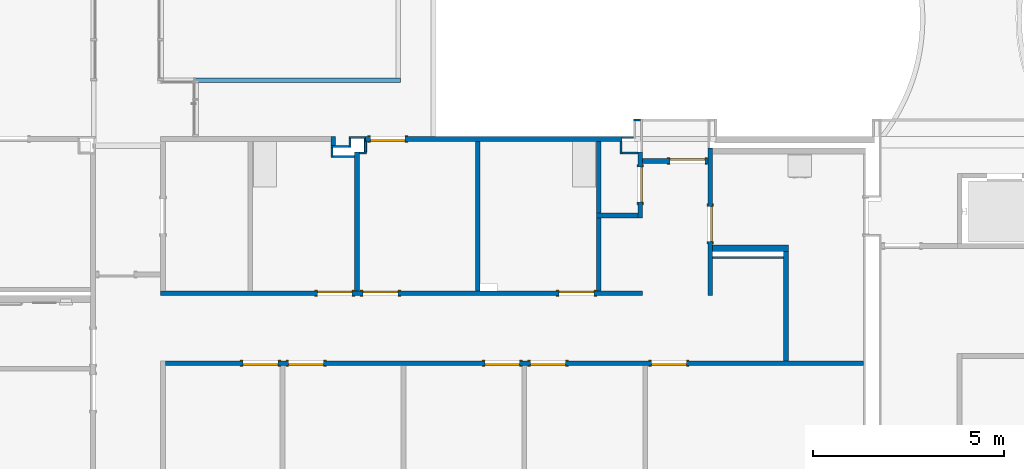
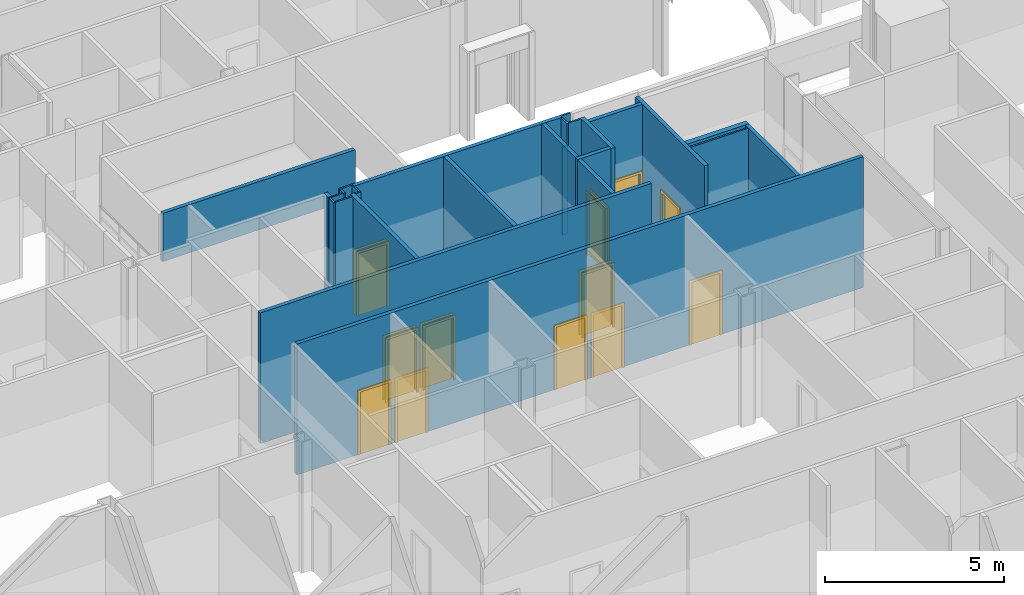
# One storey, part 28 of 82: 27 walls, 12 doors, 12 openings.
"""IFC2X3 building model written with IfcOpenShell, lengths in metres."""

from ifc_helpers import new_model, entity, si_unit, converted_unit, frame, frame_2d, origin, origin_2d_with_axis, place, context, project, spatial, polyline, rectangle, outline, extrude, source, transform, mapped, material, layer, layer_set, layer_usage, type_object, type_shapes, element, fill, save


model = new_model("IFC2X3")

# Units and contexts
model_context = context("Model", 3, precision=1e-09, world=origin())
plan_context = context("Plan", 3, precision=1e-09, world=origin())
ifc_project = project(units=[si_unit("LENGTHUNIT", "METRE"), si_unit("AREAUNIT", "SQUARE_METRE"), si_unit("VOLUMEUNIT", "CUBIC_METRE"), converted_unit("PLANEANGLEUNIT", "DEGREE", entity("IfcRatioMeasure", 0.01745329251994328), si_unit("PLANEANGLEUNIT", "RADIAN"), dimensions=[0, 0, 0, 0, 0, 0, 0]), si_unit("TIMEUNIT", "SECOND")], contexts=[model_context, plan_context])

# Site, building, storey
site_placement = place(None, origin())
site = spatial("IfcSite", under=ifc_project, at=site_placement, Name="Default", CompositionType="ELEMENT")
building_placement = place(site_placement, origin())
building = spatial("IfcBuilding", under=site, at=building_placement, CompositionType="ELEMENT")
storey_placement = place(building_placement, origin())
storey = spatial("IfcBuildingStorey", under=building, at=storey_placement, Name="First Floor", CompositionType="ELEMENT", Elevation=-3.531500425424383e-13)

# Wall, openings, doors
ifc_material_1 = material(Name="Plasterboard")
ifc_layer_1 = layer(ifc_material_1, 0.016)
ifc_material_2 = material(Name="Metal - Stud Layer")
ifc_layer_2 = layer(ifc_material_2, 0.092)
ifc_layer_3 = layer(ifc_material_1, 0.016)
ifc_layer_set_1 = layer_set([ifc_layer_1, ifc_layer_2, ifc_layer_3], Name="Basic Wall:Interior - Partition (92mm Stud)")
ifc_layer_usage_1 = layer_usage(ifc_layer_set_1, "AXIS2", "NEGATIVE", 0.062)
wall_1_placement = place(storey_placement, frame((-38.59600000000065, 22.6679999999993, 0.0)))
wall_1 = element("IfcWallStandardCase", 1, at=wall_1_placement, inside=storey, material=ifc_layer_usage_1, Name="Basic Wall:Interior - Partition (92mm Stud)", ObjectType="Basic Wall:Interior - Partition (92mm Stud)", context=model_context, shape_type="SweptSolid", body=[
    extrude(rectangle(XDim=18.306, YDim=0.1239999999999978, at=frame_2d((9.152999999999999, 0.0), x_axis=(-1.0, 0.0))), origin(), (0.0, 0.0, 1.0), 4.468000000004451),
])
opening_1_placement = place(wall_1_placement, frame((10.49100000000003, 0.06199999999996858, 0.0)))
opening_1 = element("IfcOpeningElement", 2, at=opening_1_placement, cuts=wall_1, Name="M_Single-Flush:0915 x 2134mm:0915 x 2134mm:1", ObjectType="Opening", context=model_context, shape_type="SweptSolid", body=[
    extrude(rectangle(XDim=0.9149999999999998, YDim=2.134, at=frame_2d((1.067, 0.4575), x_axis=(0.0, 1.0))), frame((0.0, 0.0, 0.0), z_axis=(0.0, -1.0, 0.0), x_axis=(0.0, 0.0, 1.0)), (0.0, 0.0, 1.0), 0.124),
])
opening_2_placement = place(wall_1_placement, frame((4.151000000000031, 0.06199999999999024, 0.0)))
opening_2 = element("IfcOpeningElement", 3, at=opening_2_placement, cuts=wall_1, Name="M_Single-Flush:0915 x 2134mm:0915 x 2134mm:1", ObjectType="Opening", context=model_context, shape_type="SweptSolid", body=[
    extrude(rectangle(XDim=0.9149999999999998, YDim=2.134, at=frame_2d((1.067, 0.4575), x_axis=(0.0, 1.0))), frame((0.0, 0.0, 0.0), z_axis=(0.0, -1.0, 0.0), x_axis=(0.0, 0.0, 1.0)), (0.0, 0.0, 1.0), 0.124),
])
opening_3_placement = place(wall_1_placement, frame((9.292000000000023, 0.06199999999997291, 0.0)))
opening_3 = element("IfcOpeningElement", 4, at=opening_3_placement, cuts=wall_1, Name="M_Single-Flush:0915 x 2134mm:0915 x 2134mm:1", ObjectType="Opening", context=model_context, shape_type="SweptSolid", body=[
    extrude(rectangle(XDim=0.9149999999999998, YDim=2.134, at=frame_2d((1.067, 0.4574999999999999), x_axis=(0.0, -1.0))), frame((0.0, 0.0, 0.0), z_axis=(0.0, -1.0, 0.0), x_axis=(0.0, 0.0, 1.0)), (0.0, 0.0, 1.0), 0.124),
])
opening_4_placement = place(wall_1_placement, frame((2.952000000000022, 0.06199999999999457, 0.0)))
opening_4 = element("IfcOpeningElement", 5, at=opening_4_placement, cuts=wall_1, Name="M_Single-Flush:0915 x 2134mm:0915 x 2134mm:1", ObjectType="Opening", context=model_context, shape_type="SweptSolid", body=[
    extrude(rectangle(XDim=0.9149999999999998, YDim=2.134, at=frame_2d((1.067, 0.4574999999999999), x_axis=(0.0, -1.0))), frame((0.0, 0.0, 0.0), z_axis=(0.0, -1.0, 0.0), x_axis=(0.0, 0.0, 1.0)), (0.0, 0.0, 1.0), 0.124),
])
opening_5_placement = place(wall_1_placement, frame((13.66100000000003, 0.06199999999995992, 0.0)))
opening_5 = element("IfcOpeningElement", 6, at=opening_5_placement, cuts=wall_1, Name="M_Single-Flush:0915 x 2134mm:0915 x 2134mm:1", ObjectType="Opening", context=model_context, shape_type="SweptSolid", body=[
    extrude(rectangle(XDim=0.9149999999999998, YDim=2.134, at=frame_2d((1.067, 0.4575), x_axis=(0.0, 1.0))), frame((0.0, 0.0, 0.0), z_axis=(0.0, -1.0, 0.0), x_axis=(0.0, 0.0, 1.0)), (0.0, 0.0, 1.0), 0.124),
])
door_style_1 = type_object("IfcDoorStyle", Name="0915 x 2134mm", ConstructionType="NOTDEFINED", OperationType="SINGLE_SWING_RIGHT", ParameterTakesPrecedence=False, Sizeable=False)
shared_shape_1 = source(origin(), model_context, "Body", "SweptSolid", [
    extrude(outline(polyline([(-0.5335, -1.123999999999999), (0.5334999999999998, -1.123999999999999), (0.5334999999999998, 1.086), (0.4574999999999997, 1.086), (0.4574999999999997, -1.048000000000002), (-0.4574999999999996, -1.048000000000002), (-0.4574999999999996, 1.086), (-0.5335, 1.086), (-0.5335, -1.123999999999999)])), frame((0.4575000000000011, 0.1239999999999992, 1.086), z_axis=(0.0, 1.0, 0.0), x_axis=(1.0, 0.0, 0.0)), (0.0, 0.0, 1.0), 0.02499999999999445),
    extrude(outline(polyline([(-1.123999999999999, -0.5334999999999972), (1.085999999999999, -0.5334999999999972), (1.085999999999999, -0.4575000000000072), (-1.048, -0.4575000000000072), (-1.048, 0.4575000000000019), (1.085999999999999, 0.4575000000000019), (1.085999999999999, 0.5335000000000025), (-1.123999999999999, 0.5335000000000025), (-1.123999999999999, -0.5334999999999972)])), frame((0.4575000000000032, -0.02500000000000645, 1.085999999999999), z_axis=(0.0, 1.0, 0.0), x_axis=(0.0, 0.0, -1.0)), (0.0, 0.0, 1.0), 0.02500000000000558),
    extrude(rectangle(XDim=0.051, YDim=0.9149999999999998, at=origin_2d_with_axis()), frame((0.4575000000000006, 0.09849999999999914, 0.0), z_axis=(0.0, 0.0, 1.0), x_axis=(0.0, 1.0, 0.0)), (0.0, 0.0, 1.0), 2.133999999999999),
])
type_shapes(door_style_1, [shared_shape_1])
door_1_placement = place(opening_1_placement, frame((0.0, 0.0, 0.0), z_axis=(0.0, 0.0, 1.0), x_axis=(-1.0, 0.0, 0.0)))
door_1 = element("IfcDoor", 7, at=door_1_placement, inside=storey, type_object=door_style_1, Name="M_Single-Flush:0915 x 2134mm:0915 x 2134mm", ObjectType="0915 x 2134mm", OverallHeight=2.134, OverallWidth=0.9149999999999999, context=model_context, shape_type="MappedRepresentation", body=[
    mapped(shared_shape_1, transform((0.0, 0.0, 0.0), scale=1.0)),
])
fill(opening_1, door_1)
door_2_placement = place(opening_5_placement, frame((0.0, 0.0, 0.0), z_axis=(0.0, 0.0, 1.0), x_axis=(-1.0, 0.0, 0.0)))
door_2 = element("IfcDoor", 8, at=door_2_placement, inside=storey, type_object=door_style_1, Name="M_Single-Flush:0915 x 2134mm:0915 x 2134mm", ObjectType="0915 x 2134mm", OverallHeight=2.134, OverallWidth=0.9149999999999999, context=model_context, shape_type="MappedRepresentation", body=[
    mapped(shared_shape_1, transform((0.0, 0.0, 0.0), scale=1.0)),
])
fill(opening_5, door_2)
door_3_placement = place(opening_2_placement, frame((0.0, 0.0, 0.0), z_axis=(0.0, 0.0, 1.0), x_axis=(-1.0, 0.0, 0.0)))
door_3 = element("IfcDoor", 9, at=door_3_placement, inside=storey, type_object=door_style_1, Name="M_Single-Flush:0915 x 2134mm:0915 x 2134mm", ObjectType="0915 x 2134mm", OverallHeight=2.134, OverallWidth=0.9149999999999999, context=model_context, shape_type="MappedRepresentation", body=[
    mapped(shared_shape_1, transform((0.0, 0.0, 0.0), scale=1.0)),
])
fill(opening_2, door_3)
door_style_2 = type_object("IfcDoorStyle", Name="0915 x 2134mm", ConstructionType="NOTDEFINED", OperationType="SINGLE_SWING_LEFT", ParameterTakesPrecedence=False, Sizeable=False)
shared_shape_2 = source(origin(), model_context, "Body", "SweptSolid", [
    extrude(outline(polyline([(-0.5335, -1.123999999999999), (0.5334999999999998, -1.123999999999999), (0.5334999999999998, 1.086), (0.4574999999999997, 1.086), (0.4574999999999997, -1.048000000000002), (-0.4574999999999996, -1.048000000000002), (-0.4574999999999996, 1.086), (-0.5335, 1.086), (-0.5335, -1.123999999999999)])), frame((0.4575000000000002, 0.1489999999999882, 1.086), z_axis=(0.0, -1.0, 0.0), x_axis=(-1.0, 0.0, 0.0)), (0.0, 0.0, 1.0), 0.02499999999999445),
    extrude(outline(polyline([(-1.123999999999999, -0.5334999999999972), (1.085999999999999, -0.5334999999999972), (1.085999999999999, -0.4575000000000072), (-1.048, -0.4575000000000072), (-1.048, 0.4575000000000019), (1.085999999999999, 0.4575000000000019), (1.085999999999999, 0.5335000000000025), (-1.123999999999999, 0.5335000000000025), (-1.123999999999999, -0.5334999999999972)])), frame((0.4574999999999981, 0.0, 1.085999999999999), z_axis=(0.0, -1.0, 0.0), x_axis=(0.0, 0.0, -1.0)), (0.0, 0.0, 1.0), 0.02500000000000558),
    extrude(rectangle(XDim=0.9149999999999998, YDim=0.051, at=origin_2d_with_axis()), frame((0.4575000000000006, 0.09849999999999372, 0.0)), (0.0, 0.0, 1.0), 2.133999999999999),
])
type_shapes(door_style_2, [shared_shape_2])
door_4_placement = place(opening_3_placement, frame((0.0, 0.0, 0.0), z_axis=(0.0, 0.0, 1.0), x_axis=(-1.0, 0.0, 0.0)))
door_4 = element("IfcDoor", 10, at=door_4_placement, inside=storey, type_object=door_style_2, Name="M_Single-Flush:0915 x 2134mm:0915 x 2134mm", ObjectType="0915 x 2134mm", OverallHeight=2.134, OverallWidth=0.9149999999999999, context=model_context, shape_type="MappedRepresentation", body=[
    mapped(shared_shape_2, transform((0.0, 0.0, 0.0), scale=1.0)),
])
fill(opening_3, door_4)
door_5_placement = place(opening_4_placement, frame((0.0, 0.0, 0.0), z_axis=(0.0, 0.0, 1.0), x_axis=(-1.0, 0.0, 0.0)))
door_5 = element("IfcDoor", 11, at=door_5_placement, inside=storey, type_object=door_style_2, Name="M_Single-Flush:0915 x 2134mm:0915 x 2134mm", ObjectType="0915 x 2134mm", OverallHeight=2.134, OverallWidth=0.9149999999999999, context=model_context, shape_type="MappedRepresentation", body=[
    mapped(shared_shape_2, transform((0.0, 0.0, 0.0), scale=1.0)),
])
fill(opening_4, door_5)

wall_2_placement = place(storey_placement, frame((-26.08000000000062, 24.50199999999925, 0.0), z_axis=(0.0, 0.0, 1.0), x_axis=(-1.0, 0.0, 0.0)))
wall_2 = element("IfcWallStandardCase", 12, at=wall_2_placement, inside=storey, material=ifc_layer_usage_1, Name="Basic Wall:Interior - Partition (92mm Stud)", ObjectType="Basic Wall:Interior - Partition (92mm Stud)", context=model_context, shape_type="SweptSolid", body=[
    extrude(rectangle(XDim=12.64, YDim=0.1239999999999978, at=frame_2d((6.319999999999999, 0.0), x_axis=(-1.0, 0.0))), origin(), (0.0, 0.0, 1.0), 4.468000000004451),
])
opening_6_placement = place(wall_2_placement, frame((8.52900000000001, 0.06199999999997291, 0.0)))
opening_6 = element("IfcOpeningElement", 13, at=opening_6_placement, cuts=wall_2, Name=":1", ObjectType="Opening", context=model_context, shape_type="SweptSolid", body=[
    extrude(rectangle(XDim=0.9149999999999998, YDim=2.134, at=frame_2d((1.067, 0.4575), x_axis=(0.0, 1.0))), frame((0.0, 0.0, 0.0), z_axis=(0.0, -1.0, 0.0), x_axis=(0.0, 0.0, 1.0)), (0.0, 0.0, 1.0), 0.124),
])
opening_7_placement = place(wall_2_placement, frame((2.188999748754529, 0.06199999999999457, 0.0)))
opening_7 = element("IfcOpeningElement", 14, at=opening_7_placement, cuts=wall_2, Name=":1", ObjectType="Opening", context=model_context, shape_type="SweptSolid", body=[
    extrude(rectangle(XDim=0.9149999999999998, YDim=2.134, at=frame_2d((1.067, 0.4575), x_axis=(0.0, 1.0))), frame((0.0, 0.0, 0.0), z_axis=(0.0, -1.0, 0.0), x_axis=(0.0, 0.0, 1.0)), (0.0, 0.0, 1.0), 0.124),
])
opening_8_placement = place(wall_2_placement, frame((7.330000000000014, 0.06199999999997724, 0.0)))
opening_8 = element("IfcOpeningElement", 15, at=opening_8_placement, cuts=wall_2, Name=":1", ObjectType="Opening", context=model_context, shape_type="SweptSolid", body=[
    extrude(rectangle(XDim=0.9149999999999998, YDim=2.134, at=frame_2d((1.067, 0.4574999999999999), x_axis=(0.0, -1.0))), frame((0.0, 0.0, 0.0), z_axis=(0.0, -1.0, 0.0), x_axis=(0.0, 0.0, 1.0)), (0.0, 0.0, 1.0), 0.124),
])
door_6_placement = place(opening_7_placement, frame((0.0, 0.0, 0.0), z_axis=(0.0, 0.0, 1.0), x_axis=(-1.0, 0.0, 0.0)))
door_6 = element("IfcDoor", 16, at=door_6_placement, inside=storey, type_object=door_style_1, Name="M_Single-Flush:0915 x 2134mm:0915 x 2134mm", ObjectType="0915 x 2134mm", OverallHeight=2.134, OverallWidth=0.9149999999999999, context=model_context, shape_type="MappedRepresentation", body=[
    mapped(shared_shape_1, transform((0.0, 0.0, 0.0), scale=1.0)),
])
fill(opening_7, door_6)
door_7_placement = place(opening_6_placement, frame((0.0, 0.0, 0.0), z_axis=(0.0, 0.0, 1.0), x_axis=(-1.0, 0.0, 0.0)))
door_7 = element("IfcDoor", 17, at=door_7_placement, inside=storey, type_object=door_style_1, Name="M_Single-Flush:0915 x 2134mm:0915 x 2134mm", ObjectType="0915 x 2134mm", OverallHeight=2.134, OverallWidth=0.9149999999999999, context=model_context, shape_type="MappedRepresentation", body=[
    mapped(shared_shape_1, transform((0.0, 0.0, 0.0), scale=1.0)),
])
fill(opening_6, door_7)
door_8_placement = place(opening_8_placement, frame((0.0, 0.0, 0.0), z_axis=(0.0, 0.0, 1.0), x_axis=(-1.0, 0.0, 0.0)))
door_8 = element("IfcDoor", 18, at=door_8_placement, inside=storey, type_object=door_style_2, Name="M_Single-Flush:0915 x 2134mm:0915 x 2134mm", ObjectType="0915 x 2134mm", OverallHeight=2.134, OverallWidth=0.9149999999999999, context=model_context, shape_type="MappedRepresentation", body=[
    mapped(shared_shape_2, transform((0.0, 0.0, 0.0), scale=1.0)),
])
fill(opening_8, door_8)

# Wall, opening, door
wall_3_placement = place(storey_placement, frame((-33.34700000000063, 28.54799999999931, 0.0)))
wall_3 = element("IfcWallStandardCase", 19, at=wall_3_placement, inside=storey, material=ifc_layer_usage_1, Name="Basic Wall:Interior - Partition (92mm Stud)", ObjectType="Basic Wall:Interior - Partition (92mm Stud)", context=model_context, shape_type="SweptSolid", body=[
    extrude(rectangle(XDim=6.730999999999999, YDim=0.1239999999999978, at=frame_2d((3.3655, 0.0), x_axis=(-1.0, 0.0))), origin(), (0.0, 0.0, 1.0), 4.46800000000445),
])
opening_9_placement = place(wall_3_placement, frame((1.042000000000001, 0.0619999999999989, 0.0)))
opening_9 = element("IfcOpeningElement", 20, at=opening_9_placement, cuts=wall_3, Name="M_Single-Flush:0915 x 2134mm:0915 x 2134mm:1", ObjectType="Opening", context=model_context, shape_type="SweptSolid", body=[
    extrude(rectangle(XDim=0.9149999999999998, YDim=2.134, at=frame_2d((1.067, 0.4575), x_axis=(0.0, 1.0))), frame((0.0, 0.0, 0.0), z_axis=(0.0, -1.0, 0.0), x_axis=(0.0, 0.0, 1.0)), (0.0, 0.0, 1.0), 0.124),
])
door_9_placement = place(opening_9_placement, frame((0.0, 0.0, 0.0), z_axis=(0.0, 0.0, 1.0), x_axis=(-1.0, 0.0, 0.0)))
door_9 = element("IfcDoor", 21, at=door_9_placement, inside=storey, type_object=door_style_1, Name="M_Single-Flush:0915 x 2134mm:0915 x 2134mm", ObjectType="0915 x 2134mm", OverallHeight=2.134, OverallWidth=0.9149999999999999, context=model_context, shape_type="MappedRepresentation", body=[
    mapped(shared_shape_1, transform((0.0, 0.0, 0.0), scale=1.0)),
])
fill(opening_9, door_9)

wall_4_placement = place(storey_placement, frame((-24.30800000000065, 24.43999999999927, 0.0), z_axis=(0.0, 0.0, 1.0), x_axis=(0.0, 1.0, 0.0)))
wall_4 = element("IfcWallStandardCase", 22, at=wall_4_placement, inside=storey, material=ifc_layer_usage_1, Name="Basic Wall:Interior - Partition (92mm Stud)", ObjectType="Basic Wall:Interior - Partition (92mm Stud)", context=model_context, shape_type="SweptSolid", body=[
    extrude(rectangle(XDim=3.878000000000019, YDim=0.1239999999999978, at=frame_2d((1.93900000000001, 0.0), x_axis=(-1.0, 0.0))), origin(), (0.0, 0.0, 1.0), 4.46800000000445),
])
opening_10_placement = place(wall_4_placement, frame((2.341000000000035, 0.0619999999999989, 0.0)))
opening_10 = element("IfcOpeningElement", 23, at=opening_10_placement, cuts=wall_4, Name="M_Single-Flush:0915 x 2134mm:0915 x 2134mm:1", ObjectType="Opening", context=model_context, shape_type="SweptSolid", body=[
    extrude(rectangle(XDim=0.9149999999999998, YDim=2.134, at=frame_2d((1.067, 0.4575), x_axis=(0.0, 1.0))), frame((0.0, 0.0, 0.0), z_axis=(0.0, -1.0, 0.0), x_axis=(0.0, 0.0, 1.0)), (0.0, 0.0, 1.0), 0.124),
])
door_10_placement = place(opening_10_placement, frame((0.0, 0.0, 0.0), z_axis=(0.0, 0.0, 1.0), x_axis=(-1.0, 0.0, 0.0)))
door_10 = element("IfcDoor", 24, at=door_10_placement, inside=storey, type_object=door_style_1, Name="M_Single-Flush:0915 x 2134mm:0915 x 2134mm", ObjectType="0915 x 2134mm", OverallHeight=2.134, OverallWidth=0.9149999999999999, context=model_context, shape_type="MappedRepresentation", body=[
    mapped(shared_shape_1, transform((0.0, 0.0, 0.0), scale=1.0)),
])
fill(opening_10, door_10)

wall_5_placement = place(storey_placement, frame((-26.14200000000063, 28.20399999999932, 0.0), z_axis=(0.0, 0.0, 1.0), x_axis=(0.0, -1.0, 0.0)))
wall_5 = element("IfcWallStandardCase", 25, at=wall_5_placement, inside=storey, material=ifc_layer_usage_1, Name="Basic Wall:Interior - Partition (92mm Stud)", ObjectType="Basic Wall:Interior - Partition (92mm Stud)", context=model_context, shape_type="SweptSolid", body=[
    extrude(rectangle(XDim=1.723999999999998, YDim=0.1239999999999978, at=frame_2d((0.861999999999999, 0.0), x_axis=(-1.0, 0.0))), origin(), (0.0, 0.0, 1.0), 4.46800000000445),
])
opening_11_placement = place(wall_5_placement, frame((0.394000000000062, -0.0619999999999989, 0.0)))
opening_11 = element("IfcOpeningElement", 26, at=opening_11_placement, cuts=wall_5, Name="M_Single-Flush:0915 x 2134mm:0915 x 2134mm:1", ObjectType="Opening", context=model_context, shape_type="SweptSolid", body=[
    extrude(rectangle(XDim=0.9149999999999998, YDim=2.134, at=frame_2d((1.067, 0.4575), x_axis=(0.0, 1.0))), frame((0.0, 0.0, 0.0), z_axis=(0.0, 1.0, 0.0), x_axis=(0.0, 0.0, 1.0)), (0.0, 0.0, 1.0), 0.124),
])
door_11_placement = place(opening_11_placement, origin())
door_11 = element("IfcDoor", 27, at=door_11_placement, inside=storey, type_object=door_style_1, Name="M_Single-Flush:0915 x 2134mm:0915 x 2134mm", ObjectType="0915 x 2134mm", OverallHeight=2.134, OverallWidth=0.9149999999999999, context=model_context, shape_type="MappedRepresentation", body=[
    mapped(shared_shape_1, transform((0.0, 0.0, 0.0), scale=1.0)),
])
fill(opening_11, door_11)

# Walls
wall_6_placement = place(storey_placement, frame((-34.1920000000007, 28.60999999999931, 0.0), z_axis=(0.0, 0.0, 1.0), x_axis=(0.0, -1.0, 0.0)))
element("IfcWallStandardCase", 28, at=wall_6_placement, inside=storey, material=ifc_layer_usage_1, Name="Basic Wall:Interior - Partition (92mm Stud)", ObjectType="Basic Wall:Interior - Partition (92mm Stud)", context=model_context, shape_type="SweptSolid", body=[
    extrude(rectangle(XDim=0.2300000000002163, YDim=0.1239999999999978, at=frame_2d((0.1150000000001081, 0.0), x_axis=(-1.0, 0.0))), origin(), (0.0, 0.0, 1.0), 4.46800000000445),
])
wall_7_placement = place(storey_placement, frame((-33.57200000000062, 28.20399999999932, 0.0), z_axis=(0.0, 0.0, 1.0), x_axis=(0.0, -1.0, 0.0)))
element("IfcWallStandardCase", 29, at=wall_7_placement, inside=storey, material=ifc_layer_usage_1, Name="Basic Wall:Interior - Partition (92mm Stud)", ObjectType="Basic Wall:Interior - Partition (92mm Stud)", context=model_context, shape_type="SweptSolid", body=[
    extrude(rectangle(XDim=3.640000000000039, YDim=0.1239999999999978, at=frame_2d((1.820000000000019, 0.0), x_axis=(-1.0, 0.0))), origin(), (0.0, 0.0, 1.0), 4.46800000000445),
])
ifc_layer_4 = layer(ifc_material_2, 0.038)
ifc_layer_5 = layer(ifc_material_1, 0.016)
ifc_layer_set_2 = layer_set([ifc_layer_4, ifc_layer_5], Name="Basic Wall:Interior - Furring (38 mm Stud)")
ifc_layer_usage_2 = layer_usage(ifc_layer_set_2, "AXIS2", "NEGATIVE", 0.027)
wall_8_placement = place(storey_placement, frame((-26.28800000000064, 28.58299999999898, 0.0), z_axis=(0.0, 0.0, 1.0), x_axis=(-1.0, 0.0, 0.0)))
element("IfcWallStandardCase", 30, at=wall_8_placement, inside=storey, material=ifc_layer_usage_2, Name="Basic Wall:Interior - Furring (38 mm Stud)", ObjectType="Basic Wall:Interior - Furring (38 mm Stud)", context=model_context, shape_type="SweptSolid", body=[
    extrude(rectangle(XDim=0.3009999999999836, YDim=0.05400000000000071, at=frame_2d((0.1774999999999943, 0.0), x_axis=(-1.0, 0.0))), origin(), (0.0, 0.0, 1.0), 4.46800000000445),
])
wall_9_placement = place(storey_placement, frame((-22.31800000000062, 22.72999999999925, 0.0), z_axis=(0.0, 0.0, 1.0), x_axis=(0.0, 1.0, 0.0)))
element("IfcWallStandardCase", 31, at=wall_9_placement, inside=storey, material=ifc_layer_usage_1, Name="Basic Wall:Interior - Partition (92mm Stud)", ObjectType="Basic Wall:Interior - Partition (92mm Stud)", context=model_context, shape_type="SweptSolid", body=[
    extrude(rectangle(XDim=2.86800000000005, YDim=0.1239999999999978, at=frame_2d((1.434000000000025, 0.0), x_axis=(-1.0, 0.0))), origin(), (0.0, 0.0, 1.0), 4.46800000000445),
])
wall_10_placement = place(storey_placement, frame((-26.20400000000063, 26.54199999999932, 0.0), z_axis=(0.0, 0.0, 1.0), x_axis=(-1.0, 0.0, 0.0)))
element("IfcWallStandardCase", 32, at=wall_10_placement, inside=storey, material=ifc_layer_usage_1, Name="Basic Wall:Interior - Partition (92mm Stud)", ObjectType="Basic Wall:Interior - Partition (92mm Stud)", context=model_context, shape_type="SweptSolid", body=[
    extrude(rectangle(XDim=1.089999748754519, YDim=0.1239999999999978, at=frame_2d((0.5449998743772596, 0.0), x_axis=(-1.0, 0.0))), origin(), (0.0, 0.0, 1.0), 4.46800000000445),
])
wall_11_placement = place(storey_placement, frame((-33.34700000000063, 28.20399999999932, 0.0), z_axis=(0.0, 0.0, 1.0), x_axis=(0.0, 1.0, 0.0)))
element("IfcWallStandardCase", 33, at=wall_11_placement, inside=storey, material=ifc_layer_usage_2, Name="Basic Wall:Interior - Furring (38 mm Stud)", ObjectType="Basic Wall:Interior - Furring (38 mm Stud)", context=model_context, shape_type="SweptSolid", body=[
    extrude(outline(polyline([(0.2819999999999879, -0.02700000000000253), (0.2819999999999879, 0.0), (0.3519999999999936, 0.0), (0.3519999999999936, 0.02699999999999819), (0.0, 0.02699999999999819), (0.0, -0.02700000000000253), (0.2819999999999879, -0.02700000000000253)])), origin(), (0.0, 0.0, 1.0), 4.468000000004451),
])
wall_12_placement = place(storey_placement, frame((-26.64300000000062, 28.48599999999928, 0.0), z_axis=(0.0, 0.0, 1.0), x_axis=(0.0, -1.0, 0.0)))
element("IfcWallStandardCase", 34, at=wall_12_placement, inside=storey, material=ifc_layer_usage_2, Name="Basic Wall:Interior - Furring (38 mm Stud)", ObjectType="Basic Wall:Interior - Furring (38 mm Stud)", context=model_context, shape_type="SweptSolid", body=[
    extrude(rectangle(XDim=0.3359999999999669, YDim=0.05399999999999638, at=frame_2d((0.1679999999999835, 0.0), x_axis=(-1.0, 0.0))), origin(), (0.0, 0.0, 1.0), 4.46800000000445),
])
wall_13_placement = place(storey_placement, frame((-27.23199974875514, 26.47999999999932, 0.0), z_axis=(0.0, 0.0, 1.0), x_axis=(0.0, -1.0, 0.0)))
element("IfcWallStandardCase", 35, at=wall_13_placement, inside=storey, material=ifc_layer_usage_1, Name="Basic Wall:Interior - Partition (92mm Stud)", ObjectType="Basic Wall:Interior - Partition (92mm Stud)", context=model_context, shape_type="SweptSolid", body=[
    extrude(rectangle(XDim=1.916000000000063, YDim=0.1239999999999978, at=frame_2d((0.9580000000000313, 0.0), x_axis=(-1.0, 0.0))), origin(), (0.0, 0.0, 1.0), 4.46800000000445),
])
wall_14_placement = place(storey_placement, frame((-34.2270000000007, 28.32599999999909, 0.0), z_axis=(0.0, 0.0, 1.0), x_axis=(0.0, -1.0, 0.0)))
element("IfcWallStandardCase", 36, at=wall_14_placement, inside=storey, material=ifc_layer_usage_2, Name="Basic Wall:Interior - Furring (38 mm Stud)", ObjectType="Basic Wall:Interior - Furring (38 mm Stud)", context=model_context, shape_type="SweptSolid", body=[
    extrude(rectangle(XDim=0.261000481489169, YDim=0.05399999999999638, at=frame_2d((0.1305002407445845, 0.0), x_axis=(-1.0, 0.0))), origin(), (0.0, 0.0, 1.0), 4.46800000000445),
])

# Wall, opening, door
wall_15_placement = place(storey_placement, frame((-24.37000000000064, 27.97199999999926, 0.0), z_axis=(0.0, 0.0, 1.0), x_axis=(-1.0, 0.0, 0.0)))
wall_15 = element("IfcWallStandardCase", 37, at=wall_15_placement, inside=storey, material=ifc_layer_usage_1, Name="Basic Wall:Interior - Partition (92mm Stud)", ObjectType="Basic Wall:Interior - Partition (92mm Stud)", context=model_context, shape_type="SweptSolid", body=[
    extrude(rectangle(XDim=1.709999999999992, YDim=0.1239999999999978, at=frame_2d((0.8549999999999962, 0.0), x_axis=(-1.0, 0.0))), origin(), (0.0, 0.0, 1.0), 4.46800000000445),
])
opening_12_placement = place(wall_15_placement, frame((0.9950000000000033, 0.0619999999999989, 0.0)))
opening_12 = element("IfcOpeningElement", 38, at=opening_12_placement, cuts=wall_15, Name="M_Single-Flush:0915 x 2134mm:0915 x 2134mm:1", ObjectType="Opening", context=model_context, shape_type="SweptSolid", body=[
    extrude(rectangle(XDim=0.9149999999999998, YDim=2.134, at=frame_2d((1.067, 0.4575), x_axis=(0.0, 1.0))), frame((0.0, 0.0, 0.0), z_axis=(0.0, -1.0, 0.0), x_axis=(0.0, 0.0, 1.0)), (0.0, 0.0, 1.0), 0.124),
])
door_12_placement = place(opening_12_placement, frame((0.0, 0.0, 0.0), z_axis=(0.0, 0.0, 1.0), x_axis=(-1.0, 0.0, 0.0)))
door_12 = element("IfcDoor", 39, at=door_12_placement, inside=storey, type_object=door_style_1, Name="M_Single-Flush:0915 x 2134mm:0915 x 2134mm", ObjectType="0915 x 2134mm", OverallHeight=2.134, OverallWidth=0.9149999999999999, context=model_context, shape_type="MappedRepresentation", body=[
    mapped(shared_shape_1, transform((0.0, 0.0, 0.0), scale=1.0)),
])
fill(opening_12, door_12)

# Walls
wall_16_placement = place(storey_placement, frame((-26.61600000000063, 28.17699999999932, 0.0)))
element("IfcWallStandardCase", 40, at=wall_16_placement, inside=storey, material=ifc_layer_usage_2, Name="Basic Wall:Interior - Furring (38 mm Stud)", ObjectType="Basic Wall:Interior - Furring (38 mm Stud)", context=model_context, shape_type="SweptSolid", body=[
    extrude(rectangle(XDim=0.4119999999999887, YDim=0.05399999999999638, at=frame_2d((0.2059999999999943, 0.0), x_axis=(-1.0, 0.0))), origin(), (0.0, 0.0, 1.0), 4.46800000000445),
])
wall_17_placement = place(storey_placement, frame((-33.34700000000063, 28.58299999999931, 0.0), z_axis=(0.0, 0.0, 1.0), x_axis=(-1.0, 0.0, 0.0)))
element("IfcWallStandardCase", 41, at=wall_17_placement, inside=storey, material=ifc_layer_usage_2, Name="Basic Wall:Interior - Furring (38 mm Stud)", ObjectType="Basic Wall:Interior - Furring (38 mm Stud)", context=model_context, shape_type="SweptSolid", body=[
    extrude(rectangle(XDim=0.4330000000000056, YDim=0.05399999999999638, at=frame_2d((0.2165000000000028, 0.0), x_axis=(-1.0, 0.0))), origin(), (0.0, 0.0, 1.0), 4.468000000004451),
])
wall_18_placement = place(storey_placement, frame((-27.23199974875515, 26.60399999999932, 0.0), z_axis=(0.0, 0.0, 1.0), x_axis=(0.0, 1.0, 0.0)))
element("IfcWallStandardCase", 42, at=wall_18_placement, inside=storey, material=ifc_layer_usage_1, Name="Basic Wall:Interior - Partition (92mm Stud)", ObjectType="Basic Wall:Interior - Partition (92mm Stud)", context=model_context, shape_type="SweptSolid", body=[
    extrude(rectangle(XDim=1.881999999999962, YDim=0.1239999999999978, at=frame_2d((0.940999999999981, 0.0), x_axis=(-1.0, 0.0))), origin(), (0.0, 0.0, 1.0), 4.46800000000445),
])
wall_19_placement = place(storey_placement, frame((-33.78000000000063, 28.35299999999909, 0.0), z_axis=(0.0, 0.0, 1.0), x_axis=(-1.0, 0.0, 0.0)))
element("IfcWallStandardCase", 43, at=wall_19_placement, inside=storey, material=ifc_layer_usage_2, Name="Basic Wall:Interior - Furring (38 mm Stud)", ObjectType="Basic Wall:Interior - Furring (38 mm Stud)", context=model_context, shape_type="SweptSolid", body=[
    extrude(rectangle(XDim=0.4740000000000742, YDim=0.05399999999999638, at=frame_2d((0.2370000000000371, 0.0), x_axis=(-1.0, 0.0))), origin(), (0.0, 0.0, 1.0), 4.468000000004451),
])
wall_20_placement = place(storey_placement, frame((-26.10700000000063, 29.04299999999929, 0.0), z_axis=(0.0, 0.0, 1.0), x_axis=(-1.0, 0.0, 0.0)))
element("IfcWallStandardCase", 44, at=wall_20_placement, inside=storey, material=ifc_layer_usage_2, Name="Basic Wall:Interior - Furring (38 mm Stud)", ObjectType="Basic Wall:Interior - Furring (38 mm Stud)", context=model_context, shape_type="SweptSolid", body=[
    extrude(rectangle(XDim=0.1810000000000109, YDim=0.05400000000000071, at=frame_2d((0.1175000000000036, 0.0), x_axis=(-1.0, 0.0))), origin(), (0.0, 0.0, 1.0), 3.0),
])
wall_21_placement = place(storey_placement, frame((-30.40200000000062, 28.48599999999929, 0.0), z_axis=(0.0, 0.0, 1.0), x_axis=(0.0, -1.0, 0.0)))
element("IfcWallStandardCase", 45, at=wall_21_placement, inside=storey, material=ifc_layer_usage_1, Name="Basic Wall:Interior - Partition (92mm Stud)", ObjectType="Basic Wall:Interior - Partition (92mm Stud)", context=model_context, shape_type="SweptSolid", body=[
    extrude(rectangle(XDim=3.922000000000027, YDim=0.1239999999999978, at=frame_2d((1.961000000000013, 0.0), x_axis=(-1.0, 0.0))), origin(), (0.0, 0.0, 1.0), 4.46800000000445),
])
wall_22_placement = place(storey_placement, frame((-33.51000000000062, 28.17699999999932, 0.0)))
element("IfcWallStandardCase", 46, at=wall_22_placement, inside=storey, material=ifc_layer_usage_2, Name="Basic Wall:Interior - Furring (38 mm Stud)", ObjectType="Basic Wall:Interior - Furring (38 mm Stud)", context=model_context, shape_type="SweptSolid", body=[
    extrude(rectangle(XDim=0.1900000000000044, YDim=0.05399999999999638, at=frame_2d((0.09500000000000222, 0.0), x_axis=(-1.0, 0.0))), origin(), (0.0, 0.0, 1.0), 4.46800000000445),
])
wall_23_placement = place(storey_placement, frame((-34.2000000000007, 28.09199951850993, 0.0)))
element("IfcWallStandardCase", 47, at=wall_23_placement, inside=storey, material=ifc_layer_usage_2, Name="Basic Wall:Interior - Furring (38 mm Stud)", ObjectType="Basic Wall:Interior - Furring (38 mm Stud)", context=model_context, shape_type="SweptSolid", body=[
    extrude(rectangle(XDim=0.5660000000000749, YDim=0.05399999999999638, at=frame_2d((0.2830000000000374, 0.0), x_axis=(-1.0, 0.0))), origin(), (0.0, 0.0, 1.0), 4.46800000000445),
])
ifc_layer_usage_3 = layer_usage(ifc_layer_set_2, "AXIS2", "POSITIVE", -0.027)
wall_24_placement = place(storey_placement, frame((-22.38000000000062, 25.44699999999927, 0.0), z_axis=(0.0, 0.0, 1.0), x_axis=(-1.0, 0.0, 0.0)))
element("IfcWallStandardCase", 48, at=wall_24_placement, inside=storey, material=ifc_layer_usage_3, Name="Basic Wall:Interior - Furring (38 mm Stud)", ObjectType="Basic Wall:Interior - Furring (38 mm Stud)", context=model_context, shape_type="SweptSolid", body=[
    extrude(rectangle(XDim=1.866000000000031, YDim=0.05399999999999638, at=frame_2d((0.9330000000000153, 0.0), x_axis=(-1.0, 0.0))), origin(), (0.0, 0.0, 1.0), 4.46800000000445),
])
wall_25_placement = place(storey_placement, frame((-38.64500000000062, 30.09299999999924, 2.8)))
element("IfcWallStandardCase", 49, at=wall_25_placement, inside=storey, material=ifc_layer_usage_1, Name="Basic Wall:Interior - Partition (92mm Stud)", ObjectType="Basic Wall:Interior - Partition (92mm Stud)", context=model_context, shape_type="SweptSolid", body=[
    extrude(rectangle(XDim=6.220000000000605, YDim=0.1239999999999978, at=frame_2d((3.110000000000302, 0.0), x_axis=(-1.0, 0.0))), origin(), (0.0, 0.0, 1.0), 1.650000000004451),
])
ifc_layer_6 = layer(ifc_material_2, 0.152)
ifc_layer_7 = layer(ifc_material_1, 0.016)
ifc_layer_set_3 = layer_set([ifc_layer_6, ifc_layer_7], Name="Basic Wall:Interior - Furring (152 mm Stud)")
ifc_layer_usage_4 = layer_usage(ifc_layer_set_3, "AXIS2", "POSITIVE", -0.08399999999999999)
wall_26_placement = place(storey_placement, frame((-24.24600000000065, 25.6819999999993, 0.0)))
element("IfcWallStandardCase", 50, at=wall_26_placement, inside=storey, material=ifc_layer_usage_4, Name="Basic Wall:Interior - Furring (152 mm Stud)", ObjectType="Basic Wall:Interior - Furring (152 mm Stud)", context=model_context, shape_type="SweptSolid", body=[
    extrude(rectangle(XDim=1.990000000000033, YDim=0.1679999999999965, at=frame_2d((0.9950000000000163, 0.0), x_axis=(-1.0, 0.0))), origin(), (0.0, 0.0, 1.0), 4.46800000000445),
])
wall_27_placement = place(storey_placement, frame((-33.75300000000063, 28.55599999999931, 0.0), z_axis=(0.0, 0.0, 1.0), x_axis=(0.0, -1.0, 0.0)))
element("IfcWallStandardCase", 51, at=wall_27_placement, inside=storey, material=ifc_layer_usage_2, Name="Basic Wall:Interior - Furring (38 mm Stud)", ObjectType="Basic Wall:Interior - Furring (38 mm Stud)", context=model_context, shape_type="SweptSolid", body=[
    extrude(rectangle(XDim=0.2300000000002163, YDim=0.05399999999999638, at=frame_2d((0.1150000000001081, 0.0), x_axis=(-1.0, 0.0))), origin(), (0.0, 0.0, 1.0), 4.46800000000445),
])

save(model, "model.ifc")
